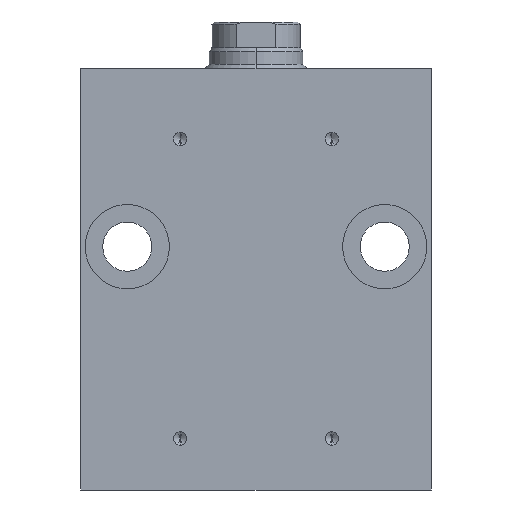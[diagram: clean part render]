
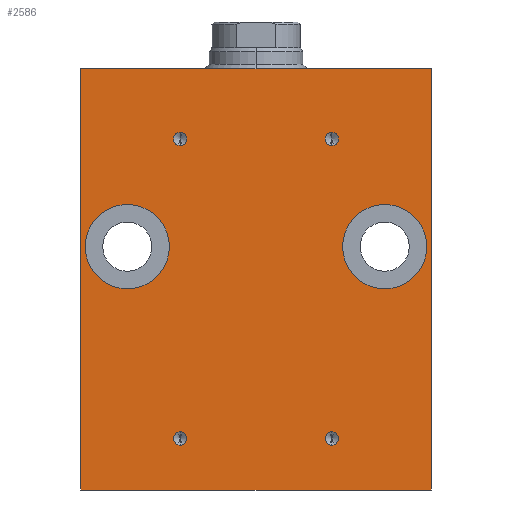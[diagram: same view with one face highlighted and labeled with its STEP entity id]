
A CAD part, left-side view. The second image highlights one B-rep face of the part: STEP entity #2586.
In plain terms, the highlighted planar face has unit normal (-1, 0, 0).
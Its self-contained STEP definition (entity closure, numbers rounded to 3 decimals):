
#8 = ORIENTED_EDGE ( 'NONE', *, *, #2284, .F. ) ;
#67 = VERTEX_POINT ( 'NONE', #3168 ) ;
#82 = EDGE_CURVE ( 'NONE', #4716, #3313, #4671, .T. ) ;
#101 = DIRECTION ( 'NONE',  ( -1., 0., 0. ) ) ;
#109 = DIRECTION ( 'NONE',  ( -1., 0., 0. ) ) ;
#143 = AXIS2_PLACEMENT_3D ( 'NONE', #2108, #2443, #1729 ) ;
#318 = CARTESIAN_POINT ( 'NONE',  ( -27.5, -16.2, -87.575 ) ) ;
#419 = EDGE_CURVE ( 'NONE', #67, #3156, #2270, .T. ) ;
#431 = CARTESIAN_POINT ( 'NONE',  ( -27.5, 27.5, -48. ) ) ;
#453 = DIRECTION ( 'NONE',  ( 0., -1., 0. ) ) ;
#475 = FACE_BOUND ( 'NONE', #604, .T. ) ;
#482 = EDGE_CURVE ( 'NONE', #2503, #4105, #3120, .T. ) ;
#501 = DIRECTION ( 'NONE',  ( 0., 0., 1. ) ) ;
#503 = EDGE_CURVE ( 'NONE', #2881, #541, #2724, .T. ) ;
#541 = VERTEX_POINT ( 'NONE', #2778 ) ;
#551 = VERTEX_POINT ( 'NONE', #4277 ) ;
#555 = DIRECTION ( 'NONE',  ( 0., 0., 1. ) ) ;
#603 = ORIENTED_EDGE ( 'NONE', *, *, #82, .T. ) ;
#604 = EDGE_LOOP ( 'NONE', ( #2736, #4487 ) ) ;
#632 = ORIENTED_EDGE ( 'NONE', *, *, #2510, .F. ) ;
#653 = DIRECTION ( 'NONE',  ( 0., 0., 1. ) ) ;
#753 = ORIENTED_EDGE ( 'NONE', *, *, #1127, .F. ) ;
#799 = CIRCLE ( 'NONE', #3855, 9. ) ;
#815 = CARTESIAN_POINT ( 'NONE',  ( -27.5, 37.5, -10. ) ) ;
#855 = DIRECTION ( 'NONE',  ( 0., 0., -1. ) ) ;
#933 = CIRCLE ( 'NONE', #2990, 1.425 ) ;
#941 = DIRECTION ( 'NONE',  ( 0., 0., 1. ) ) ;
#981 = CARTESIAN_POINT ( 'NONE',  ( -27.5, 37.5, -100. ) ) ;
#1097 = ORIENTED_EDGE ( 'NONE', *, *, #1946, .F. ) ;
#1106 = CARTESIAN_POINT ( 'NONE',  ( -27.5, -16.2, -26.425 ) ) ;
#1127 = EDGE_CURVE ( 'NONE', #3069, #551, #1172, .T. ) ;
#1143 = PLANE ( 'NONE',  #3038 ) ;
#1149 = CIRCLE ( 'NONE', #4530, 9. ) ;
#1154 = VERTEX_POINT ( 'NONE', #4272 ) ;
#1155 = VERTEX_POINT ( 'NONE', #2034 ) ;
#1172 = CIRCLE ( 'NONE', #1800, 1.425 ) ;
#1199 = ORIENTED_EDGE ( 'NONE', *, *, #2548, .F. ) ;
#1275 = CARTESIAN_POINT ( 'NONE',  ( -27.5, 16.2, -90.425 ) ) ;
#1283 = EDGE_CURVE ( 'NONE', #3156, #67, #3118, .T. ) ;
#1315 = CIRCLE ( 'NONE', #143, 1.425 ) ;
#1485 = AXIS2_PLACEMENT_3D ( 'NONE', #4601, #3116, #855 ) ;
#1491 = CARTESIAN_POINT ( 'NONE',  ( -27.5, -16.2, -25. ) ) ;
#1536 = EDGE_CURVE ( 'NONE', #541, #2881, #4749, .T. ) ;
#1539 = ORIENTED_EDGE ( 'NONE', *, *, #4475, .F. ) ;
#1590 = DIRECTION ( 'NONE',  ( -1., 0., 0. ) ) ;
#1729 = DIRECTION ( 'NONE',  ( 0., 0., 1. ) ) ;
#1764 = VERTEX_POINT ( 'NONE', #2826 ) ;
#1800 = AXIS2_PLACEMENT_3D ( 'NONE', #2082, #2803, #941 ) ;
#1842 = DIRECTION ( 'NONE',  ( -1., 0., 0. ) ) ;
#1913 = CARTESIAN_POINT ( 'NONE',  ( -27.5, 16.2, -25. ) ) ;
#1927 = DIRECTION ( 'NONE',  ( 0., 0., -1. ) ) ;
#1946 = EDGE_CURVE ( 'NONE', #4105, #2503, #799, .T. ) ;
#1968 = CARTESIAN_POINT ( 'NONE',  ( -27.5, 16.2, -89. ) ) ;
#1990 = DIRECTION ( 'NONE',  ( 0., 0., 1. ) ) ;
#2005 = EDGE_CURVE ( 'NONE', #1155, #3182, #933, .T. ) ;
#2011 = EDGE_CURVE ( 'NONE', #551, #3069, #4793, .T. ) ;
#2034 = CARTESIAN_POINT ( 'NONE',  ( -27.5, 16.2, -26.425 ) ) ;
#2082 = CARTESIAN_POINT ( 'NONE',  ( -27.5, -16.2, -89. ) ) ;
#2108 = CARTESIAN_POINT ( 'NONE',  ( -27.5, 16.2, -25. ) ) ;
#2182 = CARTESIAN_POINT ( 'NONE',  ( -27.5, 27.5, -48. ) ) ;
#2225 = ORIENTED_EDGE ( 'NONE', *, *, #482, .F. ) ;
#2237 = EDGE_LOOP ( 'NONE', ( #753, #2489 ) ) ;
#2268 = AXIS2_PLACEMENT_3D ( 'NONE', #4026, #4791, #653 ) ;
#2270 = CIRCLE ( 'NONE', #4467, 1.425 ) ;
#2275 = DIRECTION ( 'NONE',  ( 0., 0., -1. ) ) ;
#2284 = EDGE_CURVE ( 'NONE', #4716, #1154, #3964, .T. ) ;
#2299 = FACE_BOUND ( 'NONE', #4855, .T. ) ;
#2345 = FACE_BOUND ( 'NONE', #3848, .T. ) ;
#2416 = VECTOR ( 'NONE', #3336, 1000. ) ;
#2443 = DIRECTION ( 'NONE',  ( -1., 0., 0. ) ) ;
#2465 = CARTESIAN_POINT ( 'NONE',  ( -27.5, 37.5, -100. ) ) ;
#2489 = ORIENTED_EDGE ( 'NONE', *, *, #2011, .F. ) ;
#2503 = VERTEX_POINT ( 'NONE', #4177 ) ;
#2510 = EDGE_CURVE ( 'NONE', #1154, #2753, #3077, .T. ) ;
#2548 = EDGE_CURVE ( 'NONE', #3130, #1764, #1149, .T. ) ;
#2583 = ORIENTED_EDGE ( 'NONE', *, *, #4292, .T. ) ;
#2586 = ADVANCED_FACE ( 'NONE', ( #2299, #2345, #3843, #475, #3475, #3037, #4517 ), #1143, .T. ) ;
#2640 = CARTESIAN_POINT ( 'NONE',  ( -27.5, 37.5, -100. ) ) ;
#2724 = CIRCLE ( 'NONE', #3989, 1.425 ) ;
#2736 = ORIENTED_EDGE ( 'NONE', *, *, #419, .F. ) ;
#2753 = VERTEX_POINT ( 'NONE', #4769 ) ;
#2768 = CARTESIAN_POINT ( 'NONE',  ( -27.5, 27.5, -57. ) ) ;
#2778 = CARTESIAN_POINT ( 'NONE',  ( -27.5, -16.2, -23.575 ) ) ;
#2803 = DIRECTION ( 'NONE',  ( -1., 0., 0. ) ) ;
#2826 = CARTESIAN_POINT ( 'NONE',  ( -27.5, -27.5, -39. ) ) ;
#2827 = AXIS2_PLACEMENT_3D ( 'NONE', #1491, #4858, #3280 ) ;
#2881 = VERTEX_POINT ( 'NONE', #1106 ) ;
#2906 = LINE ( 'NONE', #4419, #2416 ) ;
#2965 = AXIS2_PLACEMENT_3D ( 'NONE', #431, #3055, #1927 ) ;
#2990 = AXIS2_PLACEMENT_3D ( 'NONE', #1913, #1590, #501 ) ;
#2993 = AXIS2_PLACEMENT_3D ( 'NONE', #3418, #4179, #4199 ) ;
#3033 = EDGE_LOOP ( 'NONE', ( #2225, #1097 ) ) ;
#3037 = FACE_BOUND ( 'NONE', #3033, .T. ) ;
#3038 = AXIS2_PLACEMENT_3D ( 'NONE', #2640, #109, #4237 ) ;
#3055 = DIRECTION ( 'NONE',  ( -1., 0., 0. ) ) ;
#3060 = DIRECTION ( 'NONE',  ( -1., 0., 0. ) ) ;
#3069 = VERTEX_POINT ( 'NONE', #318 ) ;
#3077 = LINE ( 'NONE', #815, #3178 ) ;
#3116 = DIRECTION ( 'NONE',  ( -1., 0., 0. ) ) ;
#3118 = CIRCLE ( 'NONE', #2268, 1.425 ) ;
#3120 = CIRCLE ( 'NONE', #2965, 9. ) ;
#3130 = VERTEX_POINT ( 'NONE', #3885 ) ;
#3147 = DIRECTION ( 'NONE',  ( 0., 0., 1. ) ) ;
#3156 = VERTEX_POINT ( 'NONE', #1275 ) ;
#3168 = CARTESIAN_POINT ( 'NONE',  ( -27.5, 16.2, -87.575 ) ) ;
#3178 = VECTOR ( 'NONE', #453, 1000. ) ;
#3182 = VERTEX_POINT ( 'NONE', #4212 ) ;
#3222 = DIRECTION ( 'NONE',  ( 0., -1., 0. ) ) ;
#3245 = ORIENTED_EDGE ( 'NONE', *, *, #2005, .F. ) ;
#3280 = DIRECTION ( 'NONE',  ( 0., 0., 1. ) ) ;
#3313 = VERTEX_POINT ( 'NONE', #3958 ) ;
#3336 = DIRECTION ( 'NONE',  ( 0., 0., 1. ) ) ;
#3340 = DIRECTION ( 'NONE',  ( 0., 0., -1. ) ) ;
#3383 = VECTOR ( 'NONE', #3222, 1000. ) ;
#3390 = CARTESIAN_POINT ( 'NONE',  ( -27.5, -27.5, -48. ) ) ;
#3418 = CARTESIAN_POINT ( 'NONE',  ( -27.5, -16.2, -89. ) ) ;
#3475 = FACE_BOUND ( 'NONE', #3575, .T. ) ;
#3575 = EDGE_LOOP ( 'NONE', ( #1539, #1199 ) ) ;
#3813 = CARTESIAN_POINT ( 'NONE',  ( -27.5, 37.5, -100. ) ) ;
#3835 = CARTESIAN_POINT ( 'NONE',  ( -27.5, -16.2, -25. ) ) ;
#3843 = FACE_BOUND ( 'NONE', #2237, .T. ) ;
#3848 = EDGE_LOOP ( 'NONE', ( #4011, #4481 ) ) ;
#3855 = AXIS2_PLACEMENT_3D ( 'NONE', #2182, #1842, #3340 ) ;
#3885 = CARTESIAN_POINT ( 'NONE',  ( -27.5, -27.5, -57. ) ) ;
#3903 = ORIENTED_EDGE ( 'NONE', *, *, #4089, .F. ) ;
#3958 = CARTESIAN_POINT ( 'NONE',  ( -27.5, -37.5, -100. ) ) ;
#3964 = LINE ( 'NONE', #2465, #4446 ) ;
#3989 = AXIS2_PLACEMENT_3D ( 'NONE', #3835, #4306, #555 ) ;
#4011 = ORIENTED_EDGE ( 'NONE', *, *, #1536, .F. ) ;
#4026 = CARTESIAN_POINT ( 'NONE',  ( -27.5, 16.2, -89. ) ) ;
#4089 = EDGE_CURVE ( 'NONE', #3182, #1155, #1315, .T. ) ;
#4105 = VERTEX_POINT ( 'NONE', #2768 ) ;
#4177 = CARTESIAN_POINT ( 'NONE',  ( -27.5, 27.5, -39. ) ) ;
#4179 = DIRECTION ( 'NONE',  ( -1., 0., 0. ) ) ;
#4199 = DIRECTION ( 'NONE',  ( 0., 0., 1. ) ) ;
#4212 = CARTESIAN_POINT ( 'NONE',  ( -27.5, 16.2, -23.575 ) ) ;
#4237 = DIRECTION ( 'NONE',  ( 0., 0., 1. ) ) ;
#4272 = CARTESIAN_POINT ( 'NONE',  ( -27.5, 37.5, -10. ) ) ;
#4277 = CARTESIAN_POINT ( 'NONE',  ( -27.5, -16.2, -90.425 ) ) ;
#4292 = EDGE_CURVE ( 'NONE', #3313, #2753, #2906, .T. ) ;
#4306 = DIRECTION ( 'NONE',  ( -1., 0., 0. ) ) ;
#4419 = CARTESIAN_POINT ( 'NONE',  ( -27.5, -37.5, -100. ) ) ;
#4446 = VECTOR ( 'NONE', #3147, 1000. ) ;
#4467 = AXIS2_PLACEMENT_3D ( 'NONE', #1968, #101, #1990 ) ;
#4475 = EDGE_CURVE ( 'NONE', #1764, #3130, #4616, .T. ) ;
#4481 = ORIENTED_EDGE ( 'NONE', *, *, #503, .F. ) ;
#4487 = ORIENTED_EDGE ( 'NONE', *, *, #1283, .F. ) ;
#4517 = FACE_OUTER_BOUND ( 'NONE', #4827, .T. ) ;
#4530 = AXIS2_PLACEMENT_3D ( 'NONE', #3390, #3060, #2275 ) ;
#4601 = CARTESIAN_POINT ( 'NONE',  ( -27.5, -27.5, -48. ) ) ;
#4616 = CIRCLE ( 'NONE', #1485, 9. ) ;
#4671 = LINE ( 'NONE', #981, #3383 ) ;
#4716 = VERTEX_POINT ( 'NONE', #3813 ) ;
#4749 = CIRCLE ( 'NONE', #2827, 1.425 ) ;
#4769 = CARTESIAN_POINT ( 'NONE',  ( -27.5, -37.5, -10. ) ) ;
#4791 = DIRECTION ( 'NONE',  ( -1., 0., 0. ) ) ;
#4793 = CIRCLE ( 'NONE', #2993, 1.425 ) ;
#4827 = EDGE_LOOP ( 'NONE', ( #632, #8, #603, #2583 ) ) ;
#4855 = EDGE_LOOP ( 'NONE', ( #3903, #3245 ) ) ;
#4858 = DIRECTION ( 'NONE',  ( -1., 0., 0. ) ) ;
